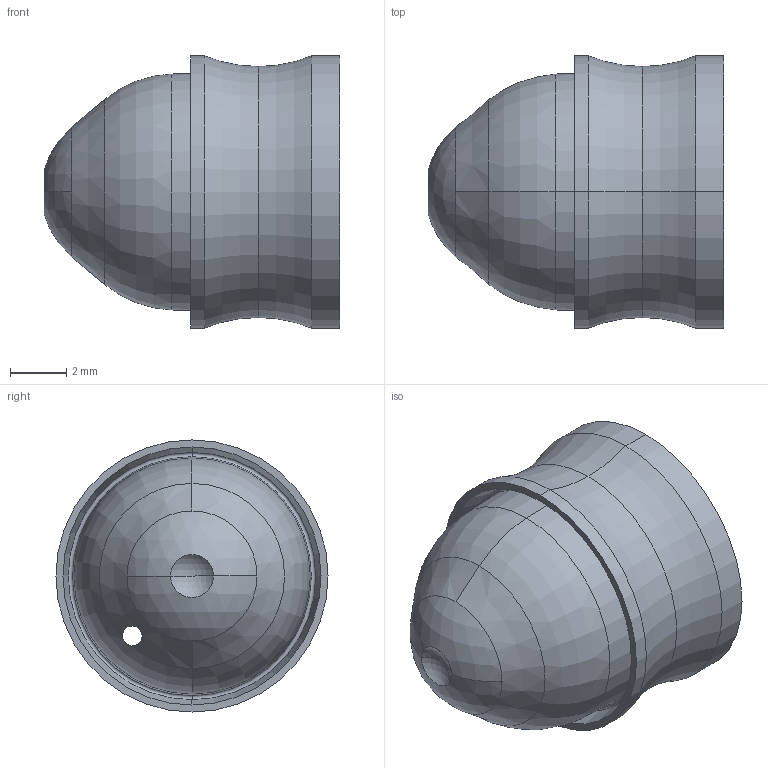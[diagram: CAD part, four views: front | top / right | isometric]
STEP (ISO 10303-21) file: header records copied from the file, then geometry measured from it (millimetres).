
FILE_DESCRIPTION (( 'STEP AP214' ), '1' );
FILE_NAME ('8001506_CUS.STEP', '2022-07-07T14:30:31', ( '' ), ( '' ), 'SwSTEP 2.0', 'SolidWorks 2020', '' );
FILE_SCHEMA (( 'AUTOMOTIVE_DESIGN' ));
Length unit declared in the file: millimetre
Products named in the file (1): 8001506_CUS
Bounding box: 10.5 x 9.66 x 9.66 mm (x, y, z)
Volume: 194.5 mm3; surface area: 644.7 mm2
Topology: 1 solids, 1 shells, 58 faces, 144 edges, 89 vertices
Faces by surface type: plane 16, torus 14, cylinder 12, cone 12, sphere 4
Entity records: 1860 total; most frequent: CARTESIAN_POINT 444, DIRECTION 302, ORIENTED_EDGE 288, EDGE_CURVE 144, AXIS2_PLACEMENT_3D 129, VERTEX_POINT 89, CIRCLE 70, EDGE_LOOP 61
